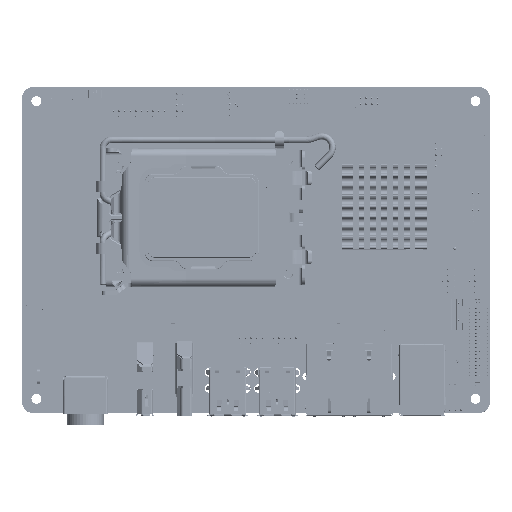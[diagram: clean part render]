
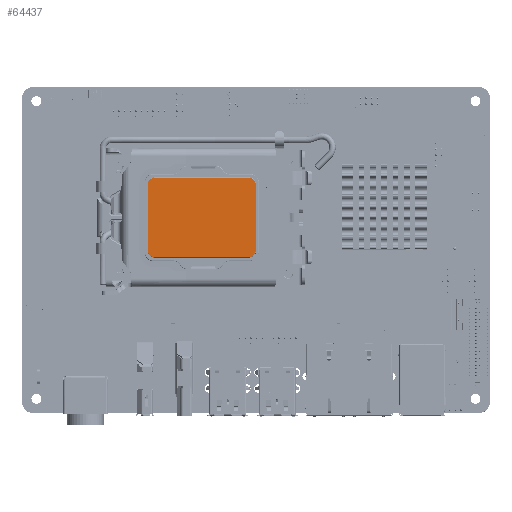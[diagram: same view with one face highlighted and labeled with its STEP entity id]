
A CAD part, top view. The second image highlights one B-rep face of the part: STEP entity #64437.
In plain terms, the highlighted planar face has unit normal (0, 0, 1) as drawn and (0, 1, 0) by its records, which use the part's own axes.
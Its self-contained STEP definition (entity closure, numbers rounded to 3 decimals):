
#62792=DIRECTION('',(0.,0.,-1.));
#62793=VECTOR('',#62792,23.3);
#62794=CARTESIAN_POINT('',(18.49,4.331,11.65));
#62795=LINE('',#62794,#62793);
#62811=CARTESIAN_POINT('',(-17.1,4.331,-11.65));
#62812=DIRECTION('',(0.,-1.,0.));
#62813=DIRECTION('',(-1.,0.,0.));
#62814=AXIS2_PLACEMENT_3D('',#62811,#62812,#62813);
#62816=CARTESIAN_POINT('',(16.19,4.331,-11.65));
#62817=DIRECTION('',(0.,-1.,0.));
#62818=DIRECTION('',(0.,0.,-1.));
#62819=AXIS2_PLACEMENT_3D('',#62816,#62817,#62818);
#62821=CARTESIAN_POINT('',(16.19,4.331,11.65));
#62822=DIRECTION('',(0.,-1.,0.));
#62823=DIRECTION('',(1.,0.,0.));
#62824=AXIS2_PLACEMENT_3D('',#62821,#62822,#62823);
#62826=CARTESIAN_POINT('',(-17.1,4.331,11.65));
#62827=DIRECTION('',(0.,-1.,0.));
#62828=DIRECTION('',(0.,0.,1.));
#62829=AXIS2_PLACEMENT_3D('',#62826,#62827,#62828);
#62831=DIRECTION('',(0.,0.,1.));
#62832=VECTOR('',#62831,23.3);
#62833=CARTESIAN_POINT('',(-19.4,4.331,-11.65));
#62834=LINE('',#62833,#62832);
#62854=DIRECTION('',(-1.,0.,0.));
#62855=VECTOR('',#62854,33.29);
#62856=CARTESIAN_POINT('',(16.19,4.331,-13.95));
#62857=LINE('',#62856,#62855);
#62881=DIRECTION('',(1.,0.,0.));
#62882=VECTOR('',#62881,33.29);
#62883=CARTESIAN_POINT('',(-17.1,4.331,13.95));
#62884=LINE('',#62883,#62882);
#63237=CARTESIAN_POINT('',(18.49,4.331,11.65));
#63238=VERTEX_POINT('',#63237);
#63239=CARTESIAN_POINT('',(16.19,4.331,13.95));
#63240=VERTEX_POINT('',#63239);
#63241=CARTESIAN_POINT('',(18.49,4.331,-11.65));
#63242=VERTEX_POINT('',#63241);
#63243=CARTESIAN_POINT('',(16.19,4.331,-13.95));
#63244=VERTEX_POINT('',#63243);
#63245=CARTESIAN_POINT('',(-19.4,4.331,-11.65));
#63246=CARTESIAN_POINT('',(-19.4,4.331,11.65));
#63247=VERTEX_POINT('',#63245);
#63248=VERTEX_POINT('',#63246);
#63249=CARTESIAN_POINT('',(-17.1,4.331,-13.95));
#63250=VERTEX_POINT('',#63249);
#63251=CARTESIAN_POINT('',(-17.1,4.331,13.95));
#63252=VERTEX_POINT('',#63251);
#64417=CARTESIAN_POINT('',(-0.455,4.331,0.));
#64418=DIRECTION('',(0.,1.,0.));
#64419=DIRECTION('',(0.,0.,1.));
#64420=AXIS2_PLACEMENT_3D('',#64417,#64418,#64419);
#64421=PLANE('',#64420);
#64423=ORIENTED_EDGE('',*,*,#64422,.F.);
#64425=ORIENTED_EDGE('',*,*,#64424,.T.);
#64427=ORIENTED_EDGE('',*,*,#64426,.F.);
#64428=ORIENTED_EDGE('',*,*,#64409,.T.);
#64429=ORIENTED_EDGE('',*,*,#64398,.F.);
#64430=ORIENTED_EDGE('',*,*,#64384,.T.);
#64432=ORIENTED_EDGE('',*,*,#64431,.F.);
#64434=ORIENTED_EDGE('',*,*,#64433,.T.);
#64435=EDGE_LOOP('',(#64423,#64425,#64427,#64428,#64429,#64430,#64432,#64434));
#64436=FACE_OUTER_BOUND('',#64435,.F.);
#64437=ADVANCED_FACE('',(#64436),#64421,.T.);
#62815=CIRCLE('',#62814,2.3);
#62820=CIRCLE('',#62819,2.3);
#62825=CIRCLE('',#62824,2.3);
#62830=CIRCLE('',#62829,2.3);
#64384=EDGE_CURVE('',#63238,#63240,#62825,.T.);
#64398=EDGE_CURVE('',#63238,#63242,#62795,.T.);
#64409=EDGE_CURVE('',#63244,#63242,#62820,.T.);
#64422=EDGE_CURVE('',#63247,#63248,#62834,.T.);
#64424=EDGE_CURVE('',#63247,#63250,#62815,.T.);
#64426=EDGE_CURVE('',#63244,#63250,#62857,.T.);
#64431=EDGE_CURVE('',#63252,#63240,#62884,.T.);
#64433=EDGE_CURVE('',#63252,#63248,#62830,.T.);
